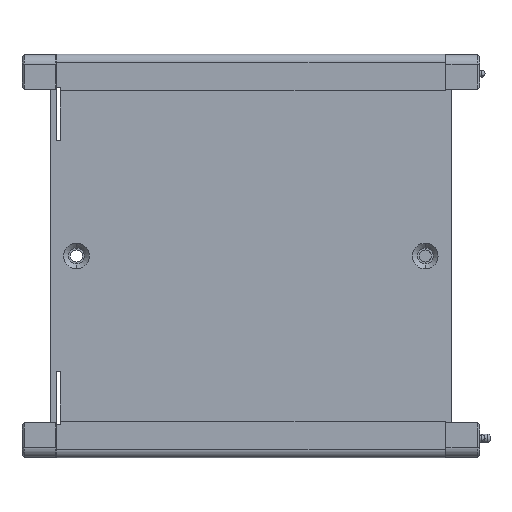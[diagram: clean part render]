
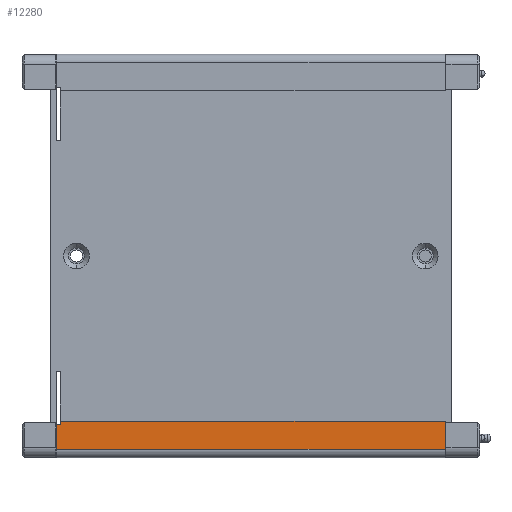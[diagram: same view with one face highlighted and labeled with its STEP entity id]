
A CAD part, left-side view. The second image highlights one B-rep face of the part: STEP entity #12280.
In plain terms, the highlighted planar face has unit normal (-1, 0, 0).
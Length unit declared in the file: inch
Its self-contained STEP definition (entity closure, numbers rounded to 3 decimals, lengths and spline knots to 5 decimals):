
#889 = LINE ( 'NONE', #1141, #53531 ) ;
#1141 = CARTESIAN_POINT ( 'NONE',  ( -1.9695, 1.85866, -1.6435 ) ) ;
#3553 = LINE ( 'NONE', #38455, #13894 ) ;
#7370 = CARTESIAN_POINT ( 'NONE',  ( -1.9695, 1.85866, -1.61417 ) ) ;
#8123 = FACE_OUTER_BOUND ( 'NONE', #45855, .T. ) ;
#8885 = CARTESIAN_POINT ( 'NONE',  ( -1.9695, 1.89866, -1.8885 ) ) ;
#12280 = ADVANCED_FACE ( 'NONE', ( #8123 ), #52787, .T. ) ;
#12328 = DIRECTION ( 'NONE',  ( 0., 1., 0. ) ) ;
#13894 = VECTOR ( 'NONE', #18177, 39.37008 ) ;
#15533 = CARTESIAN_POINT ( 'NONE',  ( -1.9695, -1.89866, -1.61417 ) ) ;
#16553 = DIRECTION ( 'NONE',  ( 0., -1., 0. ) ) ;
#16855 = VERTEX_POINT ( 'NONE', #33000 ) ;
#18177 = DIRECTION ( 'NONE',  ( 0., 0., 1. ) ) ;
#19354 = LINE ( 'NONE', #42880, #43281 ) ;
#21795 = ORIENTED_EDGE ( 'NONE', *, *, #58282, .T. ) ;
#22743 = VERTEX_POINT ( 'NONE', #55004 ) ;
#23469 = ORIENTED_EDGE ( 'NONE', *, *, #56828, .F. ) ;
#27599 = CARTESIAN_POINT ( 'NONE',  ( -1.9695, -2.40117, -1.61417 ) ) ;
#29574 = AXIS2_PLACEMENT_3D ( 'NONE', #27599, #63294, #32681 ) ;
#29752 = VECTOR ( 'NONE', #64723, 39.37008 ) ;
#31656 = DIRECTION ( 'NONE',  ( 0., 0., 1. ) ) ;
#31906 = CARTESIAN_POINT ( 'NONE',  ( -1.9695, 1.89866, -1.6435 ) ) ;
#32681 = DIRECTION ( 'NONE',  ( 0., 0., -1. ) ) ;
#33000 = CARTESIAN_POINT ( 'NONE',  ( -1.9695, 1.89866, -1.6435 ) ) ;
#34557 = LINE ( 'NONE', #59604, #29752 ) ;
#37681 = VERTEX_POINT ( 'NONE', #8885 ) ;
#37716 = VERTEX_POINT ( 'NONE', #44790 ) ;
#37915 = VERTEX_POINT ( 'NONE', #15533 ) ;
#38455 = CARTESIAN_POINT ( 'NONE',  ( -1.9695, 1.89866, -1.61417 ) ) ;
#38925 = CARTESIAN_POINT ( 'NONE',  ( -1.9695, -1.89866, -1.61417 ) ) ;
#39401 = VECTOR ( 'NONE', #49220, 39.37008 ) ;
#39878 = EDGE_CURVE ( 'NONE', #37915, #22743, #54603, .T. ) ;
#42880 = CARTESIAN_POINT ( 'NONE',  ( -1.9695, -2.40117, -1.8885 ) ) ;
#43281 = VECTOR ( 'NONE', #12328, 39.37008 ) ;
#43988 = VECTOR ( 'NONE', #16553, 39.37008 ) ;
#44790 = CARTESIAN_POINT ( 'NONE',  ( -1.9695, 1.85866, -1.6435 ) ) ;
#45855 = EDGE_LOOP ( 'NONE', ( #23469, #59743, #46007, #47867, #58476, #21795 ) ) ;
#46007 = ORIENTED_EDGE ( 'NONE', *, *, #57649, .F. ) ;
#46794 = EDGE_CURVE ( 'NONE', #16855, #37716, #57597, .T. ) ;
#47867 = ORIENTED_EDGE ( 'NONE', *, *, #64998, .F. ) ;
#49220 = DIRECTION ( 'NONE',  ( 0., 0., -1. ) ) ;
#52240 = VERTEX_POINT ( 'NONE', #7370 ) ;
#52787 = PLANE ( 'NONE',  #29574 ) ;
#53531 = VECTOR ( 'NONE', #31656, 39.37008 ) ;
#54603 = LINE ( 'NONE', #38925, #39401 ) ;
#55004 = CARTESIAN_POINT ( 'NONE',  ( -1.9695, -1.89866, -1.8885 ) ) ;
#56828 = EDGE_CURVE ( 'NONE', #37716, #52240, #889, .T. ) ;
#57597 = LINE ( 'NONE', #31906, #43988 ) ;
#57649 = EDGE_CURVE ( 'NONE', #37681, #16855, #3553, .T. ) ;
#58282 = EDGE_CURVE ( 'NONE', #37915, #52240, #34557, .T. ) ;
#58476 = ORIENTED_EDGE ( 'NONE', *, *, #39878, .F. ) ;
#59604 = CARTESIAN_POINT ( 'NONE',  ( -1.9695, -2.40117, -1.61417 ) ) ;
#59743 = ORIENTED_EDGE ( 'NONE', *, *, #46794, .F. ) ;
#63294 = DIRECTION ( 'NONE',  ( -1., 0., 0. ) ) ;
#64723 = DIRECTION ( 'NONE',  ( 0., 1., 0. ) ) ;
#64998 = EDGE_CURVE ( 'NONE', #22743, #37681, #19354, .T. ) ;
